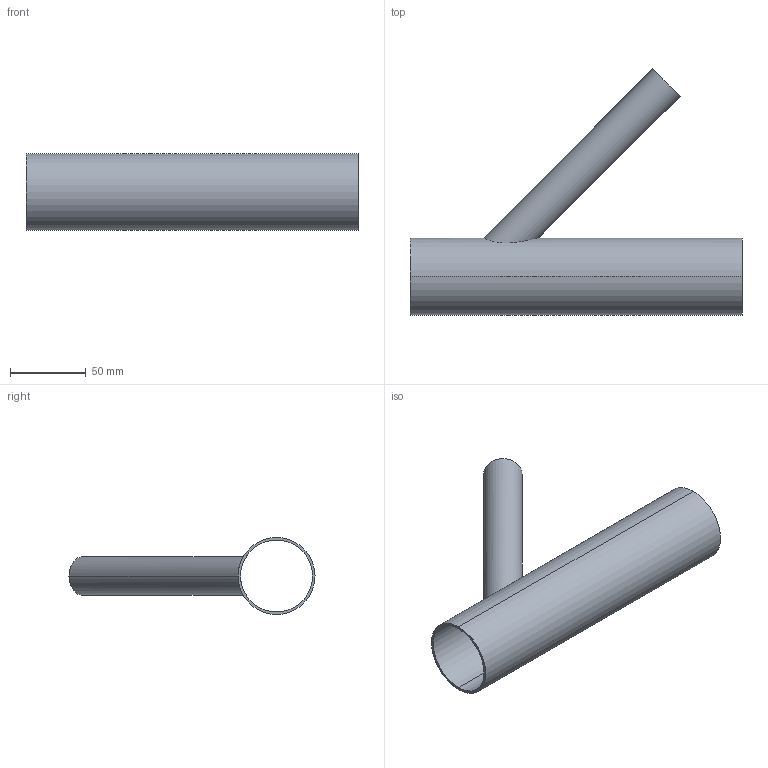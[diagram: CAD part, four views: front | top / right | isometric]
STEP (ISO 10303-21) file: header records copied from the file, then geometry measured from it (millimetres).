
FILE_DESCRIPTION (( 'STEP AP203' ), '1' );
FILE_NAME ('E28RWA 2.0X1.0.STEP', '2021-10-12T14:19:14', ( '' ), ( '' ), 'SwSTEP 2.0', 'SolidWorks 2021', '' );
FILE_SCHEMA (( 'CONFIG_CONTROL_DESIGN' ));
Length unit declared in the file: inch
Products named in the file (1): E28RWA 2.0X1.0
Bounding box: 219.07 x 162.35 x 50.8 mm (x, y, z)
Volume: 73049.4 mm3; surface area: 89113.6 mm2
Topology: 1 solids, 1 shells, 11 faces, 24 edges, 16 vertices
Faces by surface type: cylinder 8, plane 3
Entity records: 597 total; most frequent: CARTESIAN_POINT 260, DIRECTION 56, ORIENTED_EDGE 48, EDGE_CURVE 24, AXIS2_PLACEMENT_3D 24, VERTEX_POINT 16, EDGE_LOOP 16, CIRCLE 12
